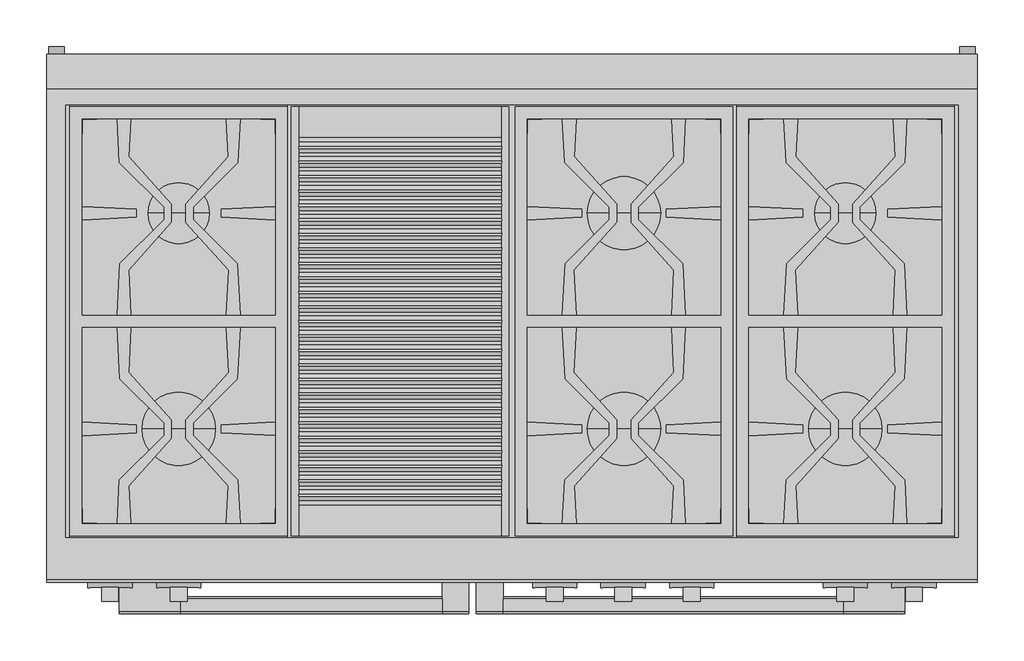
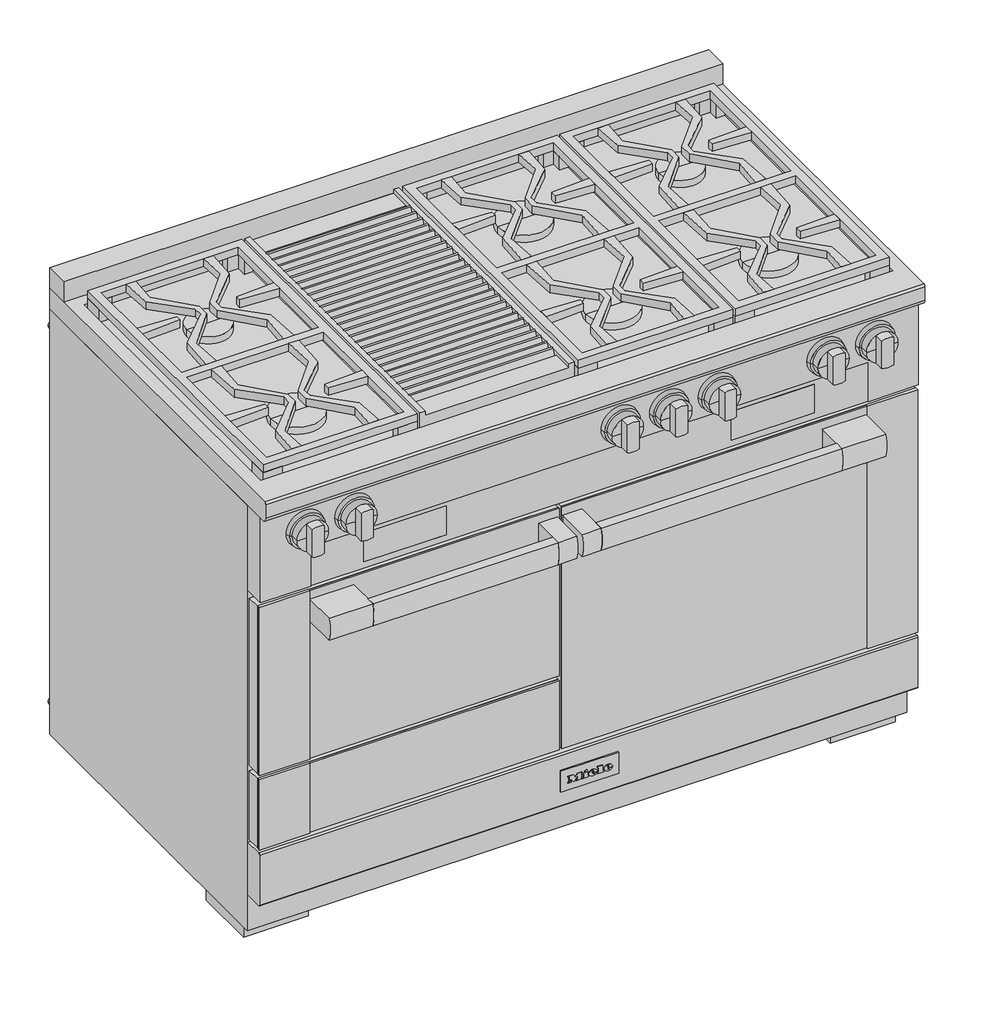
# Not in any storey: 1 proxy.
"""IFC4 building model written with IfcOpenShell, lengths in millimetres."""

from ifc_helpers import new_model, si_unit, origin, place, context, project, spatial, transform, mapped, element, save
from components import specialty_equipment_023cb875, specialty_equipment_9f889e3c, specialty_equipment_3a3c5f90

model = new_model("IFC4")

# Units and contexts
model_context = context("Model", 3, world=origin())
ifc_project = project(units=[si_unit("LENGTHUNIT", "METRE", prefix="MILLI")], contexts=[model_context])

# Site, building
site = spatial("IfcSite", under=ifc_project)
building = spatial("IfcBuilding", under=site)

# Proxy
placement = place(None, origin())
specialty_equipment_shape = specialty_equipment_023cb875(model_context)
specialty_equipment_2_shape = specialty_equipment_9f889e3c(model_context)
specialty_equipment_3_shape = specialty_equipment_3a3c5f90(model_context)
element("IfcBuildingElementProxy", 1, Name="11791690_USA_HR1955-3G_EDST-CLST : 25195581_USA_11791690_HR1955-3G_EDST-CLST", ObjectType="11791690_USA_HR1955-3G_EDST-CLST : 25195581_USA_11791690_HR1955-3G_EDST-CLST", at=placement, inside=building, context=model_context, shape_type="MappedRepresentation", body=[
    mapped(specialty_equipment_shape, transform((0.0, 0.0, 0.0), x_axis=(1.0, 0.0, 0.0), y_axis=(0.0, 1.0, 0.0), z_axis=(0.0, 0.0, 1.0))),
    mapped(specialty_equipment_2_shape, transform((0.0, 0.0, 0.0), x_axis=(1.0, 0.0, 0.0), y_axis=(0.0, 1.0, 0.0), z_axis=(0.0, 0.0, 1.0))),
    mapped(specialty_equipment_3_shape, transform((0.0, 0.0, 0.0), x_axis=(1.0, 0.0, 0.0), y_axis=(0.0, 1.0, 0.0), z_axis=(0.0, 0.0, 1.0))),
])

save(model, "model.ifc")
